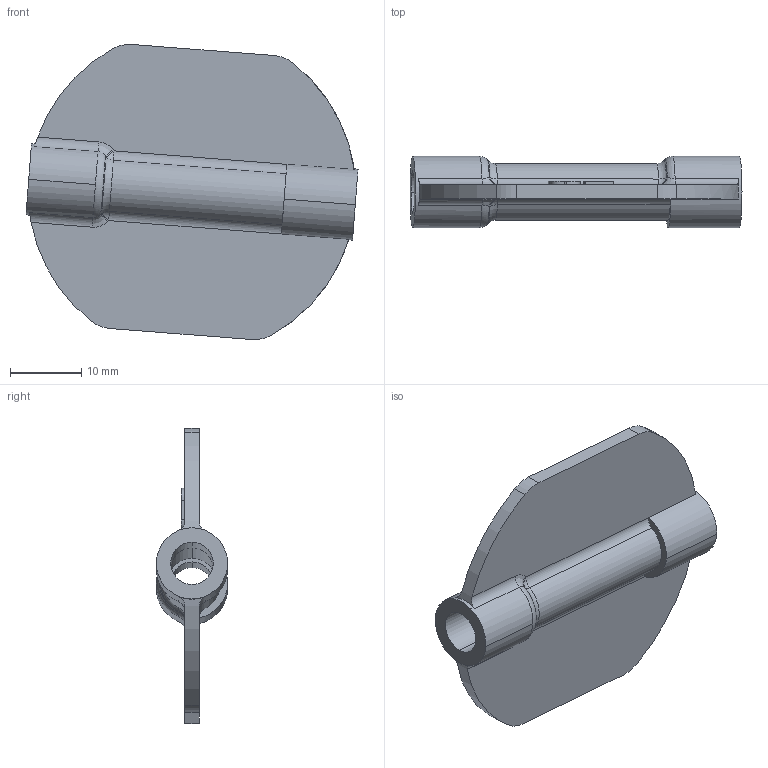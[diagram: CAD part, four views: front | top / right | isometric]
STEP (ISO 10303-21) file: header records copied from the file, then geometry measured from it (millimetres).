
FILE_DESCRIPTION((''),'2;1');
FILE_NAME('0000237055_PRT','2025-11-12T18:32:58',('Wyndorps'),(''),'CREO PARAMETRIC BY PTC INC, 2025010','CREO PARAMETRIC BY PTC INC, 2025010','');
FILE_SCHEMA(('CONFIG_CONTROL_DESIGN'));
Length unit declared in the file: millimetre
Products named in the file (1): 0000237055_PRT
Bounding box: 46.56 x 10 x 41.37 mm (x, y, z)
Volume: 3711.1 mm3; surface area: 4762 mm2
Topology: 1 solids, 1 shells, 107 faces, 265 edges, 166 vertices
Faces by surface type: plane 30, cylinder 30, extrusion 20, bspline 12, torus 6, sphere 6, cone 3
Entity records: 3915 total; most frequent: CARTESIAN_POINT 1462, ORIENTED_EDGE 530, DIRECTION 443, EDGE_CURVE 265, VERTEX_POINT 166, AXIS2_PLACEMENT_3D 157, VECTOR 129, EDGE_LOOP 115
